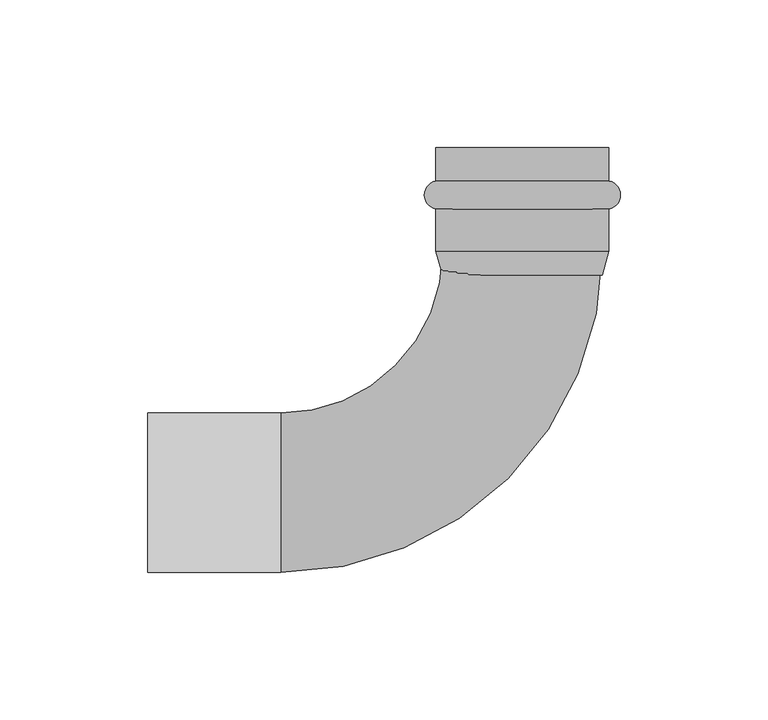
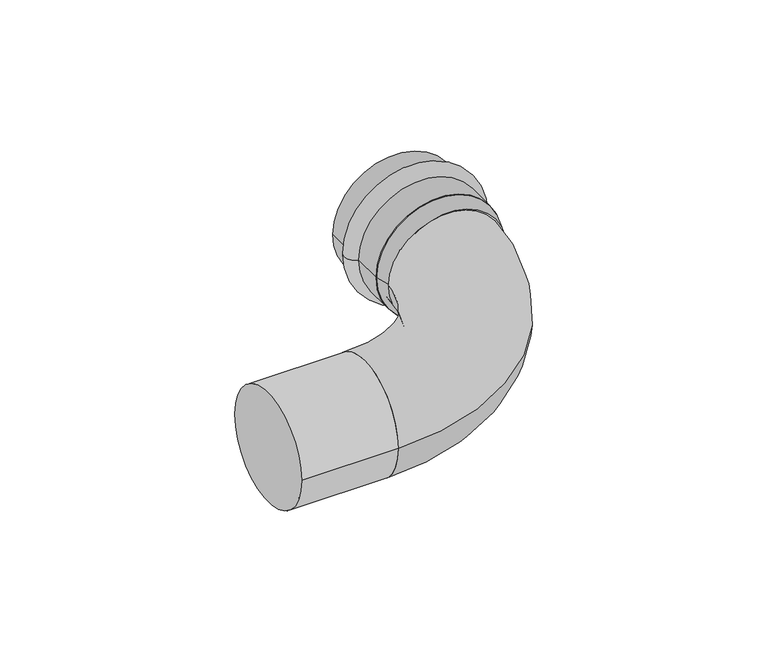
"""IFC4 building model written with IfcOpenShell, lengths in millimetres: pipe fitting geometry, VALTEC_VTi.950.I_Угольник 90° (раструб–труба) нержавеющая сталь : VTi.950.I."""

from ifc_helpers import new_model, si_unit, point, frame, origin, origin_2d, place, context, project, spatial, polyline, circle_curve, ellipse_curve, trimmed, segment, composite_curve, outline, extrude, source, transform, mapped, element, save
from ifc_brep_helpers import plane_surface, cylinder_surface, revolved_surface, advanced_brep


def pipe_fitting_e13de12b(model_context):
    return source(origin(), model_context, "Body", "SolidModel", [
        advanced_brep(
        [(-29.3, 105.6148701, 0.0), (29.3, 105.6148701, 0.0), (29.3, 96.1851299, 0.0), (-29.3, 96.1851299, 0.0), (-29.3, 117.0, 0.0), (29.3, 117.0, 0.0), (-27.0, 117.0, 0.0), (27.0, 117.0, 0.0), (-27.0, 81.9, 0.0), (27.0, 81.9, 0.0), (-29.3, 81.9, 0.0), (29.3, 81.9, 0.0)],
        [
            (0, 1, circle_curve(frame((0.0, 105.6148701, 0.0), z_axis=(0.0, -1.0, 0.0), x_axis=(1.0, 0.0, 0.0)), 29.3)),
            (1, 2, circle_curve(frame((28.4, 100.9, 0.0), z_axis=(0.0, 0.0, -1.0), x_axis=(0.0, -1.0, 0.0)), 4.8)),
            (2, 3, circle_curve(frame((0.0, 96.1851299, 0.0), z_axis=(0.0, 1.0, 0.0), x_axis=(1.0, 0.0, 0.0)), 29.3)),
            (3, 0, circle_curve(frame((-28.4, 100.9, 0.0), z_axis=(0.0, 0.0, -1.0), x_axis=(0.0, -1.0, 0.0)), 4.8)),
            (1, 0, circle_curve(frame((0.0, 105.6148701, 0.0), z_axis=(0.0, -1.0, 0.0), x_axis=(1.0, 0.0, 0.0)), 29.3)),
            (3, 2, circle_curve(frame((0.0, 96.1851299, 0.0), z_axis=(0.0, 1.0, 0.0), x_axis=(1.0, 0.0, 0.0)), 29.3)),
            (4, 5, circle_curve(frame((0.0, 117.0, 0.0), z_axis=(0.0, -1.0, 0.0), x_axis=(1.0, 0.0, 0.0)), 29.3)),
            (5, 1),
            (0, 4),
            (5, 4, circle_curve(frame((0.0, 117.0, 0.0), z_axis=(0.0, -1.0, 0.0), x_axis=(1.0, 0.0, 0.0)), 29.3)),
            (6, 7, circle_curve(frame((0.0, 117.0, 0.0), z_axis=(0.0, -1.0, 0.0), x_axis=(1.0, 0.0, 0.0)), 27.0)),
            (7, 5),
            (4, 6),
            (7, 6, circle_curve(frame((0.0, 117.0, 0.0), z_axis=(0.0, -1.0, 0.0), x_axis=(1.0, 0.0, 0.0)), 27.0)),
            (8, 9, circle_curve(frame((0.0, 81.9, 0.0), z_axis=(0.0, -1.0, 0.0), x_axis=(1.0, 0.0, 0.0)), 27.0)),
            (9, 7),
            (6, 8),
            (9, 8, circle_curve(frame((0.0, 81.9, 0.0), z_axis=(0.0, -1.0, 0.0), x_axis=(1.0, 0.0, 0.0)), 27.0)),
            (10, 11, circle_curve(frame((0.0, 81.9, 0.0), z_axis=(0.0, -1.0, 0.0), x_axis=(1.0, 0.0, 0.0)), 29.3)),
            (11, 9),
            (8, 10),
            (11, 10, circle_curve(frame((0.0, 81.9, 0.0), z_axis=(0.0, -1.0, 0.0), x_axis=(1.0, 0.0, 0.0)), 29.3)),
            (2, 11),
            (10, 3),
        ],
        [
            revolved_surface(trimmed(ellipse_curve(frame((28.4, 100.9, 0.0), z_axis=(0.0, 0.0, 1.0), x_axis=(0.0, -1.0, 0.0)), 4.8, 4.8), [point((29.3, 96.1851299, 0.0))], [point((29.3, 105.6148701, 0.0))], True, "CARTESIAN"), (0.0, 120.5364426, 0.0), (0.0, 1.0, 0.0)),
            cylinder_surface(frame((0.0, 120.5364426, 0.0), z_axis=(0.0, 1.0, 0.0), x_axis=(1.0, 0.0, 0.0)), 29.3),
            plane_surface(frame((0.0, 117.0, 0.0), z_axis=(0.0, 1.0, 0.0), x_axis=(1.0, 0.0, 0.0))),
            revolved_surface(polyline([(27.0, 117.0, 0.0), (27.0, 81.9, 0.0)]), (0.0, 120.5364426, 0.0), (0.0, 1.0, 0.0)),
            plane_surface(frame((0.0, 81.9, 0.0), z_axis=(0.0, -1.0, 0.0), x_axis=(1.0, 0.0, 0.0))),
        ],
        [
            (0, [[1, 2, 3, 4]]),
            (0, [[5, -4, 6, -2]]),
            (1, [[7, 8, -1, 9]]),
            (1, [[10, -9, -5, -8]]),
            (2, [[11, 12, -7, 13]]),
            (2, [[14, -13, -10, -12]]),
            (3, [[15, 16, -11, 17]]),
            (3, [[18, -17, -14, -16]]),
            (4, [[19, 20, -15, 21]]),
            (4, [[22, -21, -18, -20]]),
            (1, [[-3, 23, -19, 24]]),
            (1, [[-6, -24, -22, -23]]),
        ],
    ),
        extrude(outline(composite_curve([segment(trimmed(circle_curve(origin_2d(), 27.0), [point((-27.0, 0.0))], [point((27.0, 0.0))], False, "CARTESIAN"), True, "CONTINUOUS"), segment(trimmed(circle_curve(origin_2d(), 27.0), [point((27.0, 0.0))], [point((-27.0, 0.0))], False, "CARTESIAN"), True, "CONTINUOUS")], self_intersect=False)), frame((-127.0, 0.0, 0.0), z_axis=(1.0, 0.0, 0.0), x_axis=(0.0, 1.0, 0.0)), (0.0, 0.0, 1.0), 45.1),
        advanced_brep(
        [(-29.3, 81.9, 0.0), (29.3, 81.9, 0.0), (-27.0, 73.71, 0.0), (27.0, 73.71, 0.0)],
        [
            (0, 1, circle_curve(frame((0.0, 81.9, 0.0), z_axis=(0.0, 1.0, 0.0), x_axis=(-1.0, 0.0, 0.0)), 29.3)),
            (1, 0, circle_curve(frame((0.0, 81.9, 0.0), z_axis=(0.0, 1.0, 0.0), x_axis=(1.0, 0.0, 0.0)), 29.3)),
            (2, 3, circle_curve(frame((0.0, 73.71, 0.0), z_axis=(0.0, -1.0, 0.0), x_axis=(1.0, 0.0, 0.0)), 27.0)),
            (3, 2, circle_curve(frame((0.0, 73.71, 0.0), z_axis=(0.0, -1.0, 0.0), x_axis=(-1.0, 0.0, 0.0)), 27.0)),
            (2, 0),
            (1, 3),
        ],
        [
            plane_surface(frame((0.0, 81.9, 0.0), z_axis=(0.0, 1.0, 0.0), x_axis=(0.0, 0.0, -1.0))),
            plane_surface(frame((0.0, 73.71, 0.0), z_axis=(0.0, -1.0, 0.0), x_axis=(0.0, 0.0, -1.0))),
            revolved_surface(polyline([(-27.000000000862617, 73.71, 0.0), (-29.3, 81.9, 0.0)]), (0.0, -22.4334783, 0.0), (0.0, 1.0, 0.0)),
            revolved_surface(polyline([(27.000000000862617, 73.71, 0.0), (29.3, 81.9, 0.0)]), (0.0, -22.4334783, 0.0), (0.0, 1.0, 0.0)),
        ],
        [
            (0, [[1, 2]]),
            (1, [[3, 4]]),
            (2, [[-3, 5, -2, 6]]),
            (3, [[-4, -6, -1, -5]]),
        ],
    ),
        advanced_brep(
        [(-81.9, -27.0551605, 0.0), (-81.9, 26.9448395, 0.0), (27.0551605, 81.9, 0.0), (-26.9448395, 81.9, 0.0)],
        [
            (0, 1, circle_curve(frame((-81.9, -0.0551605, 0.0), z_axis=(-1.0, 0.0, 0.0), x_axis=(0.0, 1.0, 0.0)), 27.0)),
            (1, 0, circle_curve(frame((-81.9, -0.0551605, 0.0), z_axis=(-1.0, 0.0, 0.0), x_axis=(0.0, 1.0, 0.0)), 27.0)),
            (2, 3, circle_curve(frame((0.0551605, 81.9, 0.0), z_axis=(0.0, 1.0, 0.0), x_axis=(-1.0, 0.0, 0.0)), 27.0)),
            (3, 2, circle_curve(frame((0.0551605, 81.9, 0.0), z_axis=(0.0, 1.0, 0.0), x_axis=(-1.0, 0.0, 0.0)), 27.0)),
            (3, 1, circle_curve(frame((-81.9, 81.9, 0.0), z_axis=(0.0, 0.0, -1.0), x_axis=(0.0, -1.0, 0.0)), 54.9551605)),
            (0, 2, circle_curve(frame((-81.9, 81.9, 0.0), z_axis=(0.0, 0.0, 1.0), x_axis=(0.0, -1.0, 0.0)), 108.9551605)),
        ],
        [
            plane_surface(frame((-81.9, 0.0, 0.0), z_axis=(-1.0, 0.0, 0.0), x_axis=(0.0, 0.0, 1.0))),
            plane_surface(frame((0.0, 81.9, 0.0), z_axis=(0.0, 1.0, 0.0), x_axis=(0.0, 0.0, 1.0))),
            revolved_surface(trimmed(ellipse_curve(frame((-81.9, -0.0551605, 0.0), z_axis=(-1.0, 0.0, 0.0), x_axis=(0.0, 1.0, 0.0)), 27.0, 27.0), [point((-81.9, -27.0551605, 0.0))], [point((-81.9, 26.9448395, 0.0))], True, "CARTESIAN"), (-81.9, 81.9, 0.0), (0.0, 0.0, 1.0)),
            revolved_surface(trimmed(ellipse_curve(frame((-81.9, -0.0551605, 0.0), z_axis=(-1.0, 0.0, 0.0), x_axis=(0.0, 1.0, 0.0)), 27.0, 27.0), [point((-81.9, 26.9448395, 0.0))], [point((-81.9, -27.0551605, 0.0))], True, "CARTESIAN"), (-81.9, 81.9, 0.0), (0.0, 0.0, 1.0)),
        ],
        [
            (0, [[1, 2]]),
            (1, [[3, 4]]),
            (2, [[5, -1, 6, -4]]),
            (3, [[-6, -2, -5, -3]]),
        ],
    ),
    ])


if __name__ == "__main__":
    model = new_model("IFC4")
    model_context = context("Model", 3, world=origin())
    ifc_project = project(units=[si_unit("LENGTHUNIT", "METRE", prefix="MILLI")], contexts=[model_context])
    site = spatial("IfcSite", under=ifc_project)
    building = spatial("IfcBuilding", under=site)
    placement = place(None, origin())
    pipe_fitting_shape = pipe_fitting_e13de12b(model_context)
    element("IfcPipeFitting", 1, ObjectType="VALTEC_VTi.950.I_Угольник 90° (раструб–труба) нержавеющая сталь : VTi.950.I", at=placement, inside=building, context=model_context, shape_type="MappedRepresentation", body=[
        mapped(pipe_fitting_shape, transform((0.0, 0.0, 0.0), x_axis=(1.0, 0.0, 0.0), y_axis=(0.0, 1.0, 0.0), z_axis=(0.0, 0.0, 1.0))),
    ])
    save(model, "model.ifc")
